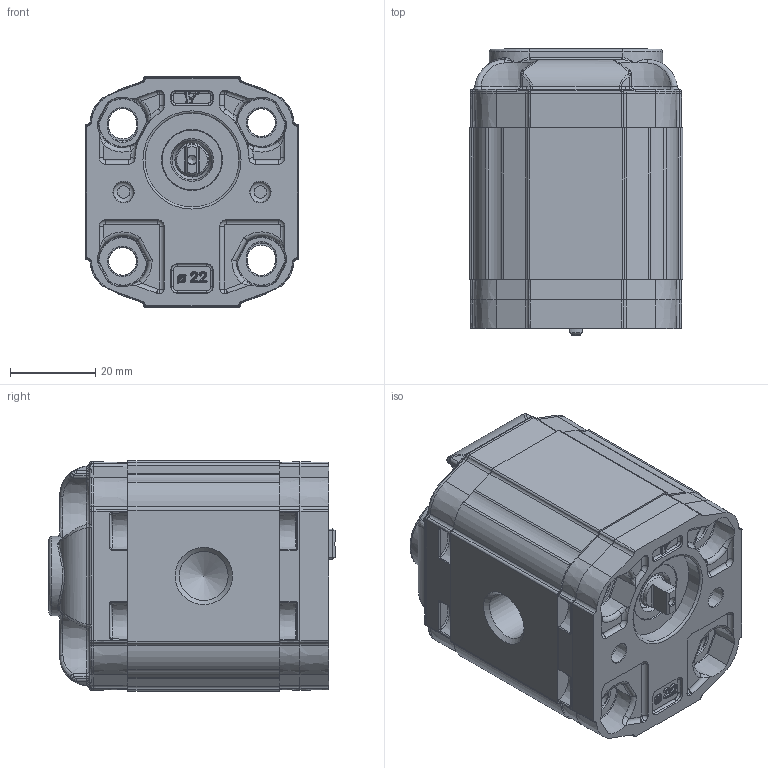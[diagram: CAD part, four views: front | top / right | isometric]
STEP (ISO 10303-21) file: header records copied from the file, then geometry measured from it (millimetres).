
FILE_DESCRIPTION(/* description */ ('Unknown'),/* implementation_level */ '2;1');
FILE_NAME(/* name */ 'X0F0723NBBA',/* time_stamp */ '2026-05-25T17:11:37+02:00',/* author */ ('Unknown'),/* organization */ ('Unknown'),/* preprocessor_version */ 'ST-DEVELOPER v16.7',/* originating_system */ 'Solid Edge',/* authorisation */ 'Unknown');
FILE_SCHEMA (('AUTOMOTIVE_DESIGN {1 0 10303 214 3 1 1}'));
Products named in the file (5): X0F0723NBBA; X0F23; 0N; X0BBH35,5; XF002-A
Assembly tree (4 placements, depth 2):
  X0F0723NBBA
    X0F23
    0N
    X0BBH35,5
    XF002-A
Bounding box: 50 x 67 x 54 mm (x, y, z)
Volume: 131794.2 mm3; surface area: 33051.6 mm2
Topology: 4 solids, 4 shells, 2056 faces, 4965 edges, 2927 vertices
Faces by surface type: cylinder 628, bspline 484, plane 471, cone 225, torus 188, sphere 60
Full cylindrical faces by diameter (mm): 2 x1, 6.5 x4, 6.511 x1, 6.518 x1, 7.16 x1, 7.5 x2, 7.92 x1, 11.445 x2, 13.178 x1, 14 x1, 22 x1
Entity records: 119231 total; most frequent: CARTESIAN_POINT 71626, ORIENTED_EDGE 9582, DIRECTION 8487, EDGE_CURVE 4791, AXIS2_PLACEMENT_3D 3436, VERTEX_POINT 2888, FACE_BOUND 2227, EDGE_LOOP 2224
